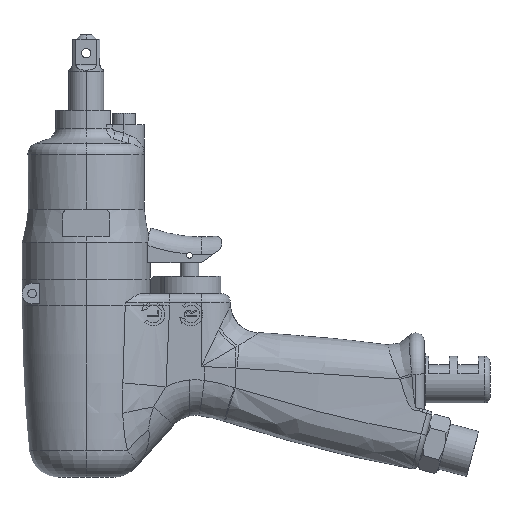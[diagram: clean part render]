
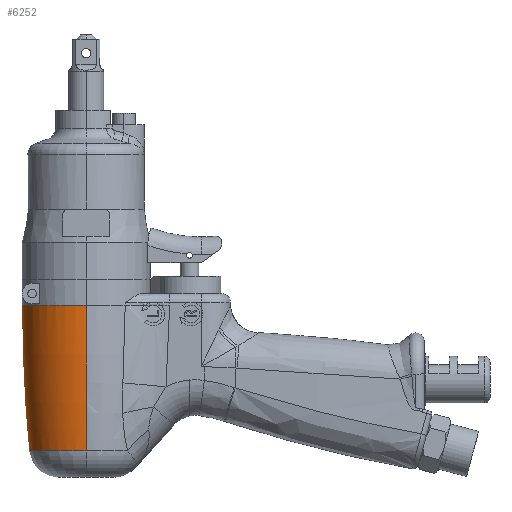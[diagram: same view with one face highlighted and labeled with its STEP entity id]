
A CAD part, left-side view. The second image highlights one B-rep face of the part: STEP entity #6252.
In plain terms, the highlighted toroidal (fillet/blend) face has major radius 478 mm and minor radius 500 mm.
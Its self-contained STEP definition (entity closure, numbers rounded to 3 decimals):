
#6143 = VERTEX_POINT ( 'NONE', #49989 ) ;
#6145 = EDGE_CURVE ( 'NONE', #6146, #6143, #49988, .T. ) ;
#6146 = VERTEX_POINT ( 'NONE', #50049 ) ;
#6182 = EDGE_CURVE ( 'NONE', #6183, #6184, #50113, .T. ) ;
#6183 = VERTEX_POINT ( 'NONE', #50098 ) ;
#6184 = VERTEX_POINT ( 'NONE', #50097 ) ;
#6214 = EDGE_CURVE ( 'NONE', #6302, #6215, #50209, .T. ) ;
#6215 = VERTEX_POINT ( 'NONE', #50208 ) ;
#6216 = ORIENTED_EDGE ( 'NONE', *, *, #6217, .T. ) ;
#6217 = EDGE_CURVE ( 'NONE', #6215, #6218, #50184, .T. ) ;
#6218 = VERTEX_POINT ( 'NONE', #50185 ) ;
#6219 = ORIENTED_EDGE ( 'NONE', *, *, #6220, .F. ) ;
#6220 = EDGE_CURVE ( 'NONE', #6146, #6218, #50243, .T. ) ;
#6226 = ORIENTED_EDGE ( 'NONE', *, *, #6227, .T. ) ;
#6227 = EDGE_CURVE ( 'NONE', #6143, #6184, #50220, .T. ) ;
#6228 = ORIENTED_EDGE ( 'NONE', *, *, #6182, .F. ) ;
#6229 = ORIENTED_EDGE ( 'NONE', *, *, #6230, .T. ) ;
#6230 = EDGE_CURVE ( 'NONE', #6183, #6231, #50215, .T. ) ;
#6231 = VERTEX_POINT ( 'NONE', #50214 ) ;
#6232 = ORIENTED_EDGE ( 'NONE', *, *, #6233, .T. ) ;
#6233 = EDGE_CURVE ( 'NONE', #6231, #6234, #50266, .T. ) ;
#6234 = VERTEX_POINT ( 'NONE', #50265 ) ;
#6235 = ORIENTED_EDGE ( 'NONE', *, *, #6236, .T. ) ;
#6236 = EDGE_CURVE ( 'NONE', #6234, #6237, #50257, .T. ) ;
#6237 = VERTEX_POINT ( 'NONE', #50258 ) ;
#6238 = ORIENTED_EDGE ( 'NONE', *, *, #6239, .T. ) ;
#6239 = EDGE_CURVE ( 'NONE', #6237, #6302, #50250, .T. ) ;
#6252 = ADVANCED_FACE ( 'NONE', ( #50295 ), #50294, .T. ) ;
#6253 = EDGE_LOOP ( 'NONE', ( #6254, #6226, #6228, #6229, #6232, #6235, #6238, #6303, #6216, #6219 ) ) ;
#6254 = ORIENTED_EDGE ( 'NONE', *, *, #6145, .T. ) ;
#6302 = VERTEX_POINT ( 'NONE', #50405 ) ;
#6303 = ORIENTED_EDGE ( 'NONE', *, *, #6214, .T. ) ;
#49984 = DIRECTION ( 'NONE',  ( 1., 0., 0. ) ) ;
#49985 = DIRECTION ( 'NONE',  ( 0., 0., 1. ) ) ;
#49986 = CARTESIAN_POINT ( 'NONE',  ( 0., 0., -59. ) ) ;
#49987 = AXIS2_PLACEMENT_3D ( 'NONE', #49986, #49985, #49984 ) ;
#49988 = CIRCLE ( 'NONE', #49987, 19.494 ) ;
#49989 = CARTESIAN_POINT ( 'NONE',  ( -19.494, 0., -59. ) ) ;
#50049 = CARTESIAN_POINT ( 'NONE',  ( 19.494, 0., -59. ) ) ;
#50097 = CARTESIAN_POINT ( 'NONE',  ( -22., 0., -9. ) ) ;
#50098 = CARTESIAN_POINT ( 'NONE',  ( 19.267, 10.621, -9. ) ) ;
#50099 = DIRECTION ( 'NONE',  ( 1., 0., 0. ) ) ;
#50100 = DIRECTION ( 'NONE',  ( 0., 0., 1. ) ) ;
#50101 = CARTESIAN_POINT ( 'NONE',  ( 0., 0., -9. ) ) ;
#50102 = AXIS2_PLACEMENT_3D ( 'NONE', #50101, #50100, #50099 ) ;
#50113 = CIRCLE ( 'NONE', #50102, 22. ) ;
#50184 = B_SPLINE_CURVE_WITH_KNOTS ( 'NONE', 3,
 ( #50242, #50241, #50240, #50239, #50238, #50237 ),
 .UNSPECIFIED., .F., .F.,
 ( 4, 2, 4 ),
 ( 0., 0.003, 0.005 ),
 .UNSPECIFIED. ) ;
#50185 = CARTESIAN_POINT ( 'NONE',  ( 19.983, 0., -53.862 ) ) ;
#50186 = CARTESIAN_POINT ( 'NONE',  ( 19.212, 5.419, -54.102 ) ) ;
#50187 = CARTESIAN_POINT ( 'NONE',  ( 19.07, 5.916, -54.125 ) ) ;
#50188 = CARTESIAN_POINT ( 'NONE',  ( 18.918, 6.4, -54.064 ) ) ;
#50189 = CARTESIAN_POINT ( 'NONE',  ( 18.759, 6.871, -53.921 ) ) ;
#50208 = CARTESIAN_POINT ( 'NONE',  ( 19.212, 5.419, -54.102 ) ) ;
#50209 = B_SPLINE_CURVE_WITH_KNOTS ( 'NONE', 3,
 ( #50189, #50188, #50187, #50186 ),
 .UNSPECIFIED., .F., .F.,
 ( 4, 4 ),
 ( 0., 0.002 ),
 .UNSPECIFIED. ) ;
#50213 = CARTESIAN_POINT ( 'NONE',  ( 19.267, 10.621, -9. ) ) ;
#50214 = CARTESIAN_POINT ( 'NONE',  ( 19.038, 11.023, -9.963 ) ) ;
#50215 = B_SPLINE_CURVE_WITH_KNOTS ( 'NONE', 3,
 ( #50213, #50269, #50268, #50267 ),
 .UNSPECIFIED., .F., .F.,
 ( 4, 4 ),
 ( 0.007, 0.008 ),
 .UNSPECIFIED. ) ;
#50216 = DIRECTION ( 'NONE',  ( -1., 0., 0. ) ) ;
#50217 = DIRECTION ( 'NONE',  ( 0., 1., 0. ) ) ;
#50218 = CARTESIAN_POINT ( 'NONE',  ( 478., 0., -9. ) ) ;
#50219 = AXIS2_PLACEMENT_3D ( 'NONE', #50218, #50217, #50216 ) ;
#50220 = CIRCLE ( 'NONE', #50219, 500. ) ;
#50232 = DIRECTION ( 'NONE',  ( 0., 0., -1. ) ) ;
#50233 = DIRECTION ( 'NONE',  ( 0., -1., 0. ) ) ;
#50234 = CARTESIAN_POINT ( 'NONE',  ( -478., 0., -9. ) ) ;
#50235 = AXIS2_PLACEMENT_3D ( 'NONE', #50234, #50233, #50232 ) ;
#50237 = CARTESIAN_POINT ( 'NONE',  ( 19.983, 0., -53.862 ) ) ;
#50238 = CARTESIAN_POINT ( 'NONE',  ( 19.983, 0.923, -53.862 ) ) ;
#50239 = CARTESIAN_POINT ( 'NONE',  ( 19.917, 1.835, -53.896 ) ) ;
#50240 = CARTESIAN_POINT ( 'NONE',  ( 19.658, 3.64, -53.995 ) ) ;
#50241 = CARTESIAN_POINT ( 'NONE',  ( 19.466, 4.533, -54.06 ) ) ;
#50242 = CARTESIAN_POINT ( 'NONE',  ( 19.212, 5.419, -54.102 ) ) ;
#50243 = CIRCLE ( 'NONE', #50235, 500. ) ;
#50244 = CARTESIAN_POINT ( 'NONE',  ( 17.114, 11.096, -49.016 ) ) ;
#50245 = CARTESIAN_POINT ( 'NONE',  ( 17.099, 11.173, -48.654 ) ) ;
#50246 = CARTESIAN_POINT ( 'NONE',  ( 17.1, 11.275, -47.929 ) ) ;
#50247 = CARTESIAN_POINT ( 'NONE',  ( 17.116, 11.302, -47.563 ) ) ;
#50248 = CARTESIAN_POINT ( 'NONE',  ( 17.148, 11.305, -47.194 ) ) ;
#50250 = B_SPLINE_CURVE_WITH_KNOTS ( 'NONE', 3,
 ( #50248, #50247, #50246, #50245, #50244, #50293, #50292, #50291, #50290, #50289, #50288, #50287, #50286, #50285, #50284, #50283, #50282, #50281 ),
 .UNSPECIFIED., .F., .F.,
 ( 4, 2, 2, 2, 2, 2, 2, 2, 4 ),
 ( 0., 0.001, 0.002, 0.003, 0.004, 0.005, 0.007, 0.008, 0.009 ),
 .UNSPECIFIED. ) ;
#50251 = CARTESIAN_POINT ( 'NONE',  ( 17.148, 11.305, -47.194 ) ) ;
#50252 = CARTESIAN_POINT ( 'NONE',  ( 17.653, 11.343, -41.42 ) ) ;
#50253 = CARTESIAN_POINT ( 'NONE',  ( 18.04, 11.37, -35.639 ) ) ;
#50254 = CARTESIAN_POINT ( 'NONE',  ( 18.585, 11.408, -24.064 ) ) ;
#50255 = CARTESIAN_POINT ( 'NONE',  ( 18.743, 11.419, -18.269 ) ) ;
#50256 = CARTESIAN_POINT ( 'NONE',  ( 18.788, 11.422, -12.472 ) ) ;
#50257 = B_SPLINE_CURVE_WITH_KNOTS ( 'NONE', 3,
 ( #50256, #50255, #50254, #50253, #50252, #50251 ),
 .UNSPECIFIED., .F., .F.,
 ( 4, 2, 4 ),
 ( 0., 0.017, 0.035 ),
 .UNSPECIFIED. ) ;
#50258 = CARTESIAN_POINT ( 'NONE',  ( 17.148, 11.305, -47.194 ) ) ;
#50259 = CARTESIAN_POINT ( 'NONE',  ( 18.788, 11.422, -12.472 ) ) ;
#50260 = CARTESIAN_POINT ( 'NONE',  ( 18.792, 11.422, -12.042 ) ) ;
#50261 = CARTESIAN_POINT ( 'NONE',  ( 18.815, 11.389, -11.618 ) ) ;
#50262 = CARTESIAN_POINT ( 'NONE',  ( 18.899, 11.256, -10.779 ) ) ;
#50263 = CARTESIAN_POINT ( 'NONE',  ( 18.961, 11.155, -10.364 ) ) ;
#50264 = CARTESIAN_POINT ( 'NONE',  ( 19.038, 11.023, -9.963 ) ) ;
#50265 = CARTESIAN_POINT ( 'NONE',  ( 18.788, 11.422, -12.472 ) ) ;
#50266 = B_SPLINE_CURVE_WITH_KNOTS ( 'NONE', 3,
 ( #50264, #50263, #50262, #50261, #50260, #50259 ),
 .UNSPECIFIED., .F., .F.,
 ( 4, 2, 4 ),
 ( 0., 0.001, 0.003 ),
 .UNSPECIFIED. ) ;
#50267 = CARTESIAN_POINT ( 'NONE',  ( 19.038, 11.023, -9.963 ) ) ;
#50268 = CARTESIAN_POINT ( 'NONE',  ( 19.103, 10.912, -9.628 ) ) ;
#50269 = CARTESIAN_POINT ( 'NONE',  ( 19.179, 10.779, -9.307 ) ) ;
#50281 = CARTESIAN_POINT ( 'NONE',  ( 18.759, 6.871, -53.921 ) ) ;
#50282 = CARTESIAN_POINT ( 'NONE',  ( 18.645, 7.209, -53.818 ) ) ;
#50283 = CARTESIAN_POINT ( 'NONE',  ( 18.529, 7.535, -53.679 ) ) ;
#50284 = CARTESIAN_POINT ( 'NONE',  ( 18.3, 8.149, -53.348 ) ) ;
#50285 = CARTESIAN_POINT ( 'NONE',  ( 18.187, 8.437, -53.154 ) ) ;
#50286 = CARTESIAN_POINT ( 'NONE',  ( 17.968, 8.981, -52.716 ) ) ;
#50287 = CARTESIAN_POINT ( 'NONE',  ( 17.861, 9.239, -52.469 ) ) ;
#50288 = CARTESIAN_POINT ( 'NONE',  ( 17.663, 9.707, -51.938 ) ) ;
#50289 = CARTESIAN_POINT ( 'NONE',  ( 17.572, 9.92, -51.654 ) ) ;
#50290 = CARTESIAN_POINT ( 'NONE',  ( 17.409, 10.305, -51.049 ) ) ;
#50291 = CARTESIAN_POINT ( 'NONE',  ( 17.337, 10.477, -50.727 ) ) ;
#50292 = CARTESIAN_POINT ( 'NONE',  ( 17.22, 10.771, -50.065 ) ) ;
#50293 = CARTESIAN_POINT ( 'NONE',  ( 17.175, 10.895, -49.723 ) ) ;
#50294 = TOROIDAL_SURFACE ( 'NONE', #50296, -478., 500. ) ;
#50295 = FACE_OUTER_BOUND ( 'NONE', #6253, .T. ) ;
#50296 = AXIS2_PLACEMENT_3D ( 'NONE', #50346, #50345, #50344 ) ;
#50344 = DIRECTION ( 'NONE',  ( 1., 0., 0. ) ) ;
#50345 = DIRECTION ( 'NONE',  ( 0., 0., 1. ) ) ;
#50346 = CARTESIAN_POINT ( 'NONE',  ( 0., 0., -9. ) ) ;
#50405 = CARTESIAN_POINT ( 'NONE',  ( 18.759, 6.871, -53.921 ) ) ;
